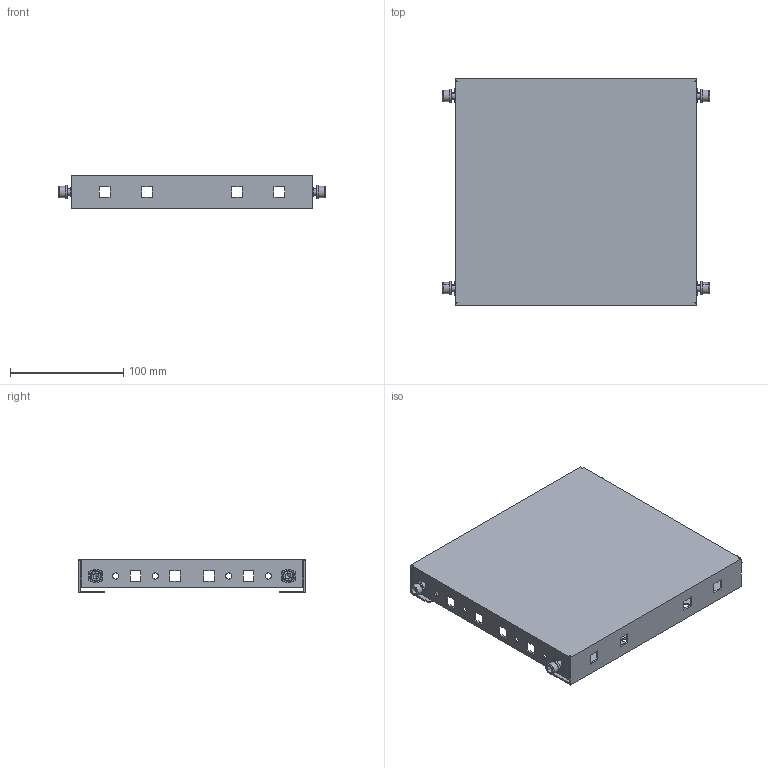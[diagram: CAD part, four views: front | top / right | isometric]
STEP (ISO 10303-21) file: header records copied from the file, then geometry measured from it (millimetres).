
FILE_DESCRIPTION(('Open CASCADE Model'),'2;1');
FILE_NAME('Open CASCADE Shape Model','2025-02-07T17:53:30',('Author'),( 'Open CASCADE'),'Open CASCADE STEP processor 7.8','Open CASCADE 7.8' ,'Unknown');
FILE_SCHEMA(('AUTOMOTIVE_DESIGN { 1 0 10303 214 1 1 1 1 }'));
Length unit declared in the file: millimetre
Products named in the file (5): Compound1; Solid1; Solid2; Solid3; Solid4
Assembly tree (13 placements, depth 2):
  Compound1
    Solid1
    Solid2  x4
    Solid3  x4
    Solid4  x4
Bounding box: 236.2 x 200 x 30 mm (x, y, z)
Volume: 112206.1 mm3; surface area: 152793.8 mm2
Topology: 13 solids, 13 shells, 732 faces, 2042 edges, 1328 vertices
Faces by surface type: plane 402, cylinder 266, cone 32, bspline 16, torus 16
Full cylindrical faces by diameter (mm): 5.5 x8, 6.5 x18
Entity records: 22906 total; most frequent: CARTESIAN_POINT 14984, ORIENTED_EDGE 1692, DIRECTION 1488, EDGE_CURVE 846, VERTEX_POINT 557, LINE 554, VECTOR 554, AXIS2_PLACEMENT_3D 467
